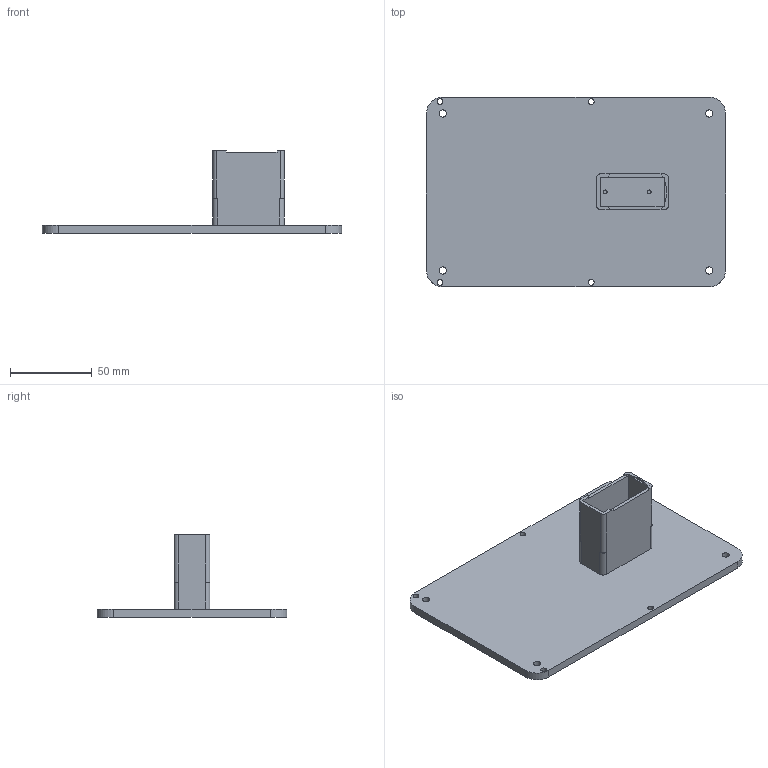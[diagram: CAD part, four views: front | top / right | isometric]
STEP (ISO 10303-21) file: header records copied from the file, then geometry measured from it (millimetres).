
FILE_DESCRIPTION(('Open CASCADE Model'),'2;1');
FILE_NAME('Open CASCADE Shape Model','2026-11-19T06:41:47',('Author'),( 'Open CASCADE'),'Open CASCADE STEP processor 8.0','Open CASCADE 8.0' ,'Unknown');
FILE_SCHEMA(('AUTOMOTIVE_DESIGN { 1 0 10303 214 1 1 1 1 }'));
Length unit declared in the file: millimetre
Products named in the file (1): Open CASCADE STEP translator 8.0 36
Bounding box: 183 x 116 x 50.7 mm (x, y, z)
Volume: 129421.8 mm3; surface area: 54420.4 mm2
Topology: 1 solids, 1 shells, 57 faces, 156 edges, 104 vertices
Faces by surface type: plane 30, cylinder 27
Full cylindrical faces by diameter (mm): 2.4 x2, 3.55 x4, 4.45 x4
Entity records: 3886 total; most frequent: CARTESIAN_POINT 750, DIRECTION 578, ORIENTED_EDGE 312, LINE 312, VECTOR 312, PCURVE 312, DEFINITIONAL_REPRESENTATION 312, EDGE_CURVE 156
